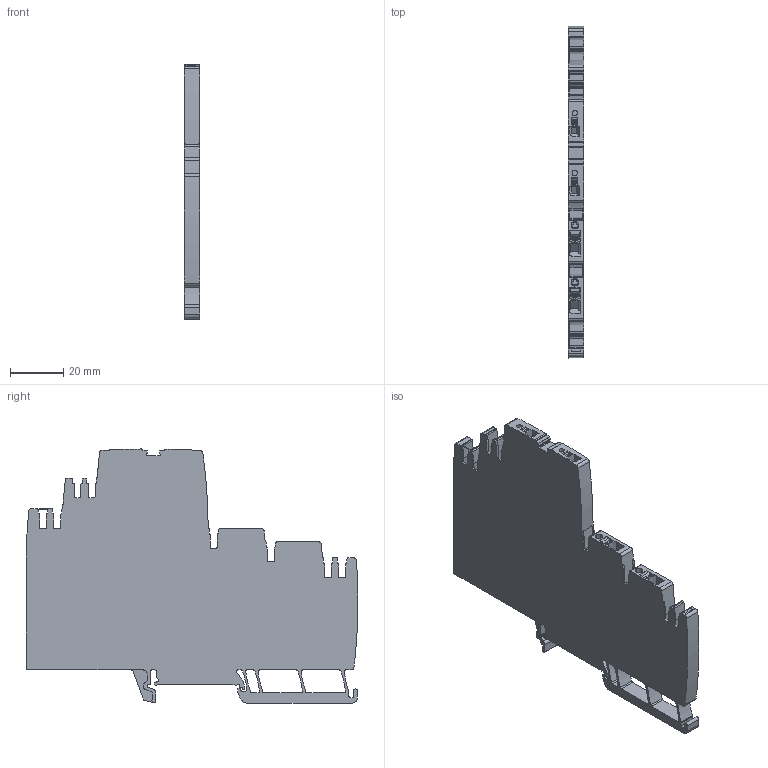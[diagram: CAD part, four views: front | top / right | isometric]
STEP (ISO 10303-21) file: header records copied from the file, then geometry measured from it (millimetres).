
FILE_DESCRIPTION(('CATIA V5R24 STEP','CAx-IF Rec.Pracs.--- Model Styling and Organization---1.2---2011-12-15'),'2;1');
FILE_NAME('\\SRVDE107\Germany\WMC\1_WMC_Input\Step_BU_PA\2122940000.stp','2017-09-05T06:05:57+00:00',('Weidmueller Interface'),('WI'),'CATIA Version 5-6 Release 2014 SP4','CATIA V5 STEP AP214','none');
FILE_SCHEMA(('AUTOMOTIVE_DESIGN { 1 0 10303 214 1 1 1 1 }'));
Length unit declared in the file: millimetre
Products named in the file (1): 2122940000
Bounding box: 6 x 125.08 x 95.73 mm (x, y, z)
Volume: 25595.2 mm3; surface area: 33563.5 mm2
Topology: 12 solids, 12 shells, 930 faces, 2841 edges, 1950 vertices
Faces by surface type: plane 530, cylinder 355, extrusion 45
Entity records: 33399 total; most frequent: CARTESIAN_POINT 7641, ORIENTED_EDGE 5682, DIRECTION 4233, EDGE_CURVE 2841, VERTEX_POINT 1950, VECTOR 1945, LINE 1900, AXIS2_PLACEMENT_3D 1500
